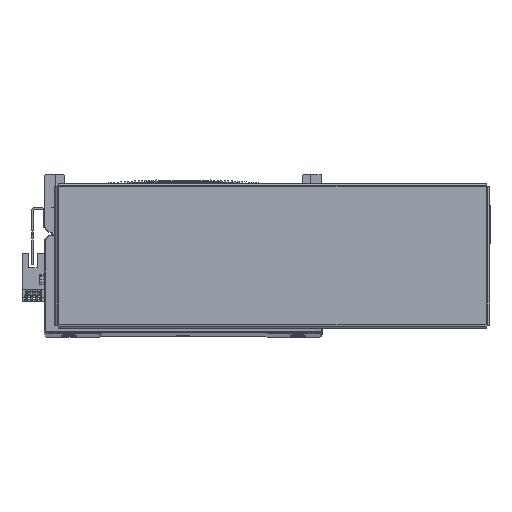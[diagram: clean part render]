
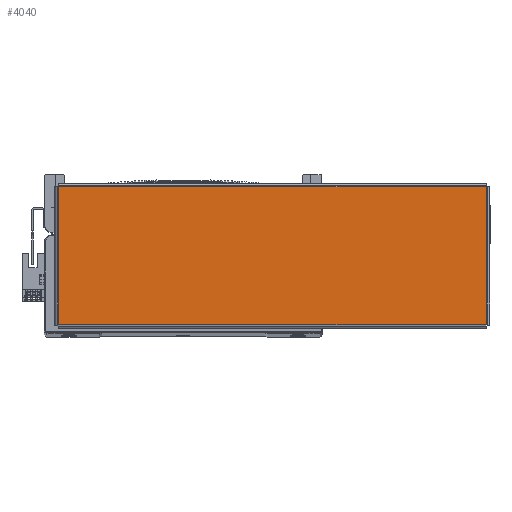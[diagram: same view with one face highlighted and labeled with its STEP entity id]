
A CAD part, top view. The second image highlights one B-rep face of the part: STEP entity #4040.
In plain terms, the highlighted planar face has unit normal (0, 0, 1) as drawn and (0, -1, 0) by its records, which use the part's own axes.
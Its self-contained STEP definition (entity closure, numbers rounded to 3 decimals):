
#3713 = AXIS2_PLACEMENT_3D ( 'NONE', #47038, #47021, #47051 ) ;
#4040 = ADVANCED_FACE ( 'NONE', ( #17563 ), #47019, .F. ) ;
#6421 = EDGE_LOOP ( 'NONE', ( #13624, #13643, #13689, #13665 ) ) ;
#13624 = ORIENTED_EDGE ( 'NONE', *, *, #65054, .T. ) ;
#13643 = ORIENTED_EDGE ( 'NONE', *, *, #67692, .T. ) ;
#13665 = ORIENTED_EDGE ( 'NONE', *, *, #65060, .T. ) ;
#13689 = ORIENTED_EDGE ( 'NONE', *, *, #67694, .T. ) ;
#14662 = VERTEX_POINT ( 'NONE', #61930 ) ;
#14677 = VERTEX_POINT ( 'NONE', #61949 ) ;
#14695 = VERTEX_POINT ( 'NONE', #61827 ) ;
#14705 = VERTEX_POINT ( 'NONE', #61908 ) ;
#17563 = FACE_OUTER_BOUND ( 'NONE', #6421, .T. ) ;
#18305 = DIRECTION ( 'NONE',  ( -1., 0., 0. ) ) ;
#18335 = CARTESIAN_POINT ( 'NONE',  ( 130.893, -1.5, 42.263 ) ) ;
#18356 = DIRECTION ( 'NONE',  ( 0., 0., -1. ) ) ;
#18371 = CARTESIAN_POINT ( 'NONE',  ( -130.863, -1.5, 42.293 ) ) ;
#40828 = CARTESIAN_POINT ( 'NONE',  ( 130.863, -1.5, -42.293 ) ) ;
#40844 = DIRECTION ( 'NONE',  ( 1., 0., 0. ) ) ;
#40850 = CARTESIAN_POINT ( 'NONE',  ( -130.893, -1.5, -42.263 ) ) ;
#40880 = DIRECTION ( 'NONE',  ( 0., 0., 1. ) ) ;
#43900 = LINE ( 'NONE', #18335, #43950 ) ;
#43908 = LINE ( 'NONE', #18371, #43910 ) ;
#43910 = VECTOR ( 'NONE', #18356, 1000. ) ;
#43950 = VECTOR ( 'NONE', #18305, 1000. ) ;
#47019 = PLANE ( 'NONE',  #3713 ) ;
#47021 = DIRECTION ( 'NONE',  ( 0., 1., 0. ) ) ;
#47038 = CARTESIAN_POINT ( 'NONE',  ( 0., -1.5, 0. ) ) ;
#47051 = DIRECTION ( 'NONE',  ( 0., 0., 1. ) ) ;
#61827 = CARTESIAN_POINT ( 'NONE',  ( -130.863, -1.5, 42.263 ) ) ;
#61908 = CARTESIAN_POINT ( 'NONE',  ( 130.863, -1.5, -42.263 ) ) ;
#61930 = CARTESIAN_POINT ( 'NONE',  ( 130.863, -1.5, 42.263 ) ) ;
#61949 = CARTESIAN_POINT ( 'NONE',  ( -130.863, -1.5, -42.263 ) ) ;
#64631 = LINE ( 'NONE', #40850, #64633 ) ;
#64633 = VECTOR ( 'NONE', #40844, 1000. ) ;
#64636 = LINE ( 'NONE', #40828, #64643 ) ;
#64643 = VECTOR ( 'NONE', #40880, 1000. ) ;
#65054 = EDGE_CURVE ( 'NONE', #14705, #14662, #64636, .T. ) ;
#65060 = EDGE_CURVE ( 'NONE', #14677, #14705, #64631, .T. ) ;
#67692 = EDGE_CURVE ( 'NONE', #14662, #14695, #43900, .T. ) ;
#67694 = EDGE_CURVE ( 'NONE', #14695, #14677, #43908, .T. ) ;
